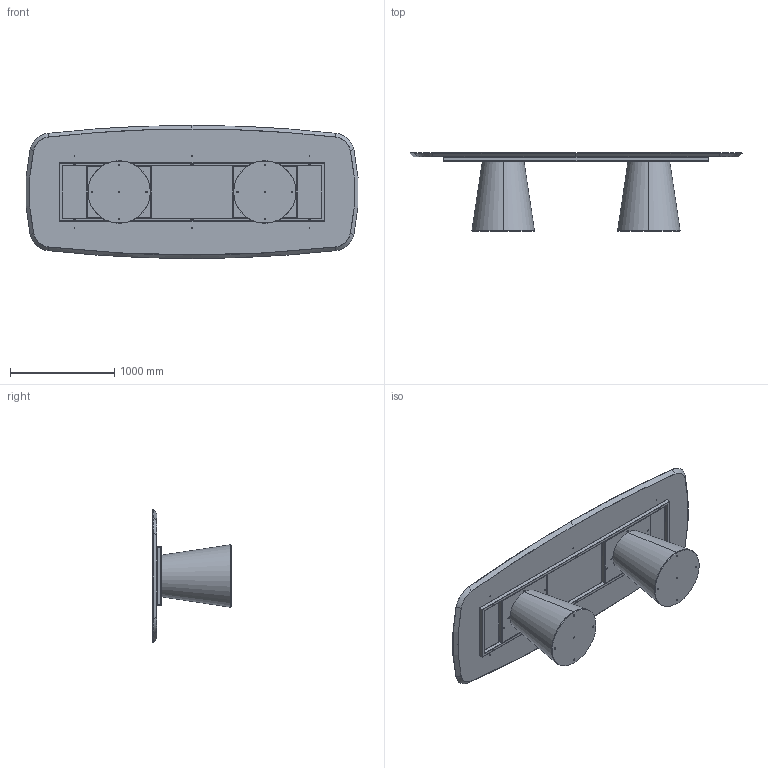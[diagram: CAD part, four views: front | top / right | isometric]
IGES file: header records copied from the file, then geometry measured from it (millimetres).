
Start section: SolidWorks IGES file using analytic representation for surfaces
Global section: file name: Y:\eforma\TECNICO\SOLIDWORKS\E-FORMA\1-TAVOLI\TEO\08 modelli 3D web\TO45W_Teo_320x128_Wood Shaped.IGS; native system: SolidWorks 2022; preprocessor: SolidWorks 2022; author: eforma.tech; date: 240802.114112; units: millimetre
Bounding box: 3190.14 x 751.19 x 1280 mm (x, y, z)
Volume: 200187271.9 mm3; surface area: 17393448.5 mm2
Topology: 28 solids, 28 shells, 1115 faces, 2552 edges, 1465 vertices
Faces by surface type: revolution 629, plane 486
